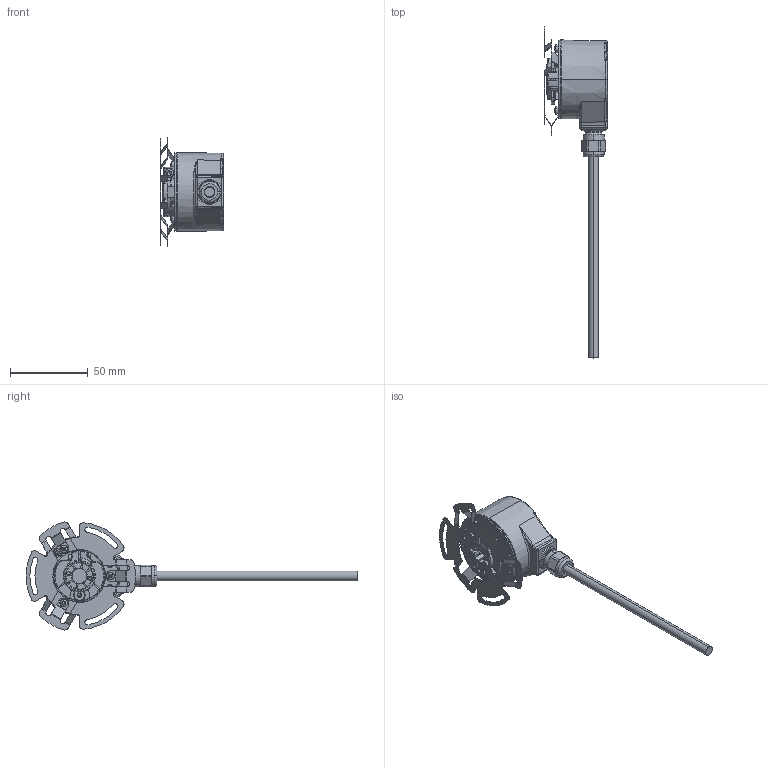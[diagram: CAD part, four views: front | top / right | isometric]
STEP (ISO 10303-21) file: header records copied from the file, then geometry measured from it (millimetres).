
FILE_DESCRIPTION (( 'STEP AP203' ), '1' );
FILE_NAME ('847A-Q3XX-RPXXXXX.STEP', '2014-10-01T19:23:43', ( 'Windows 7 64-Bit' ), ( 'SICK Inc.' ), 'SwSTEP 2.0', 'SolidWorks 2014', '' );
FILE_SCHEMA (( 'CONFIG_CONTROL_DESIGN' ));
Length unit declared in the file: millimetre
Products named in the file (1): 847A-Q3XX-RPXXXXX
Bounding box: 40.5 x 213.29 x 69.46 mm (x, y, z)
Surface area: 21348.5 mm2 (no closed solid volume)
Topology: 0 solids, 26 shells, 677 faces, 2149 edges, 1412 vertices
Faces by surface type: cylinder 271, plane 187, cone 126, bspline 47, torus 26, sphere 20
Entity records: 25924 total; most frequent: CARTESIAN_POINT 8132, DIRECTION 3571, ORIENTED_EDGE 3545, EDGE_CURVE 2123, VERTEX_POINT 1412, AXIS2_PLACEMENT_3D 1384, VECTOR 803, LINE 803
